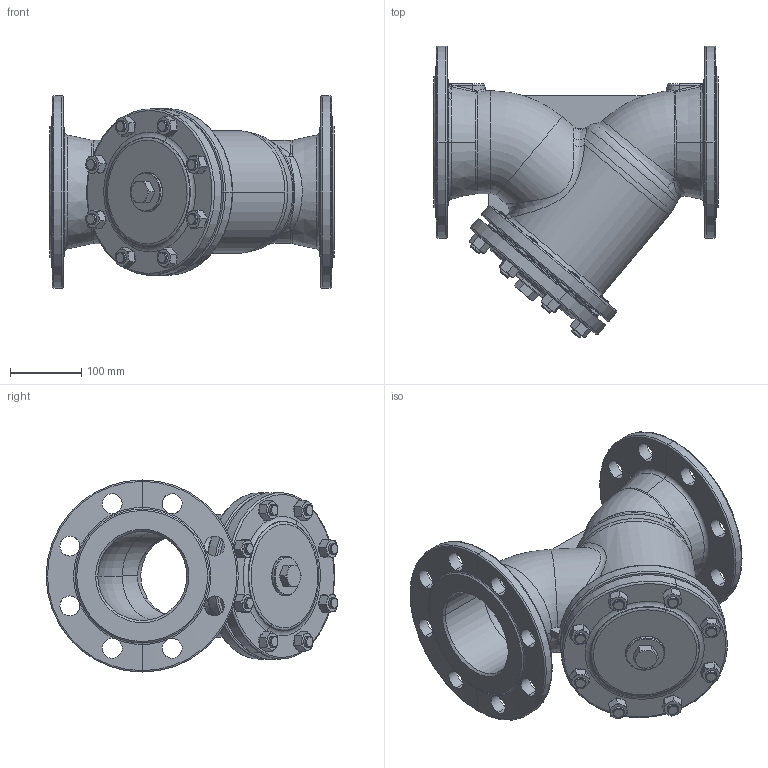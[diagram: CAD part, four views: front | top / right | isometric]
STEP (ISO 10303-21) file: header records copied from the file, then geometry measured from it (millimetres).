
FILE_DESCRIPTION (( 'STEP AP203' ), '1' );
FILE_NAME ('821_DN125_PN25.STEP', '2010-01-13T07:24:43', ( 'Piotr Zlobecki' ), ( 'ZETKAMA SA' ), 'SwSTEP 2.0', 'SolidWorks 2010', '' );
FILE_SCHEMA (( 'CONFIG_CONTROL_DESIGN' ));
Length unit declared in the file: millimetre
Products named in the file (1): 821_DN125_PN25
Bounding box: 400 x 409.85 x 270 mm (x, y, z)
Volume: 5147726.1 mm3; surface area: 839406.7 mm2
Topology: 19 solids, 19 shells, 851 faces, 1896 edges, 1092 vertices
Faces by surface type: cylinder 256, cone 211, plane 179, torus 135, bspline 70
Entity records: 50517 total; most frequent: CARTESIAN_POINT 31844, DIRECTION 3999, ORIENTED_EDGE 3792, EDGE_CURVE 1896, AXIS2_PLACEMENT_3D 1710, VERTEX_POINT 1092, EDGE_LOOP 946, CIRCLE 928
